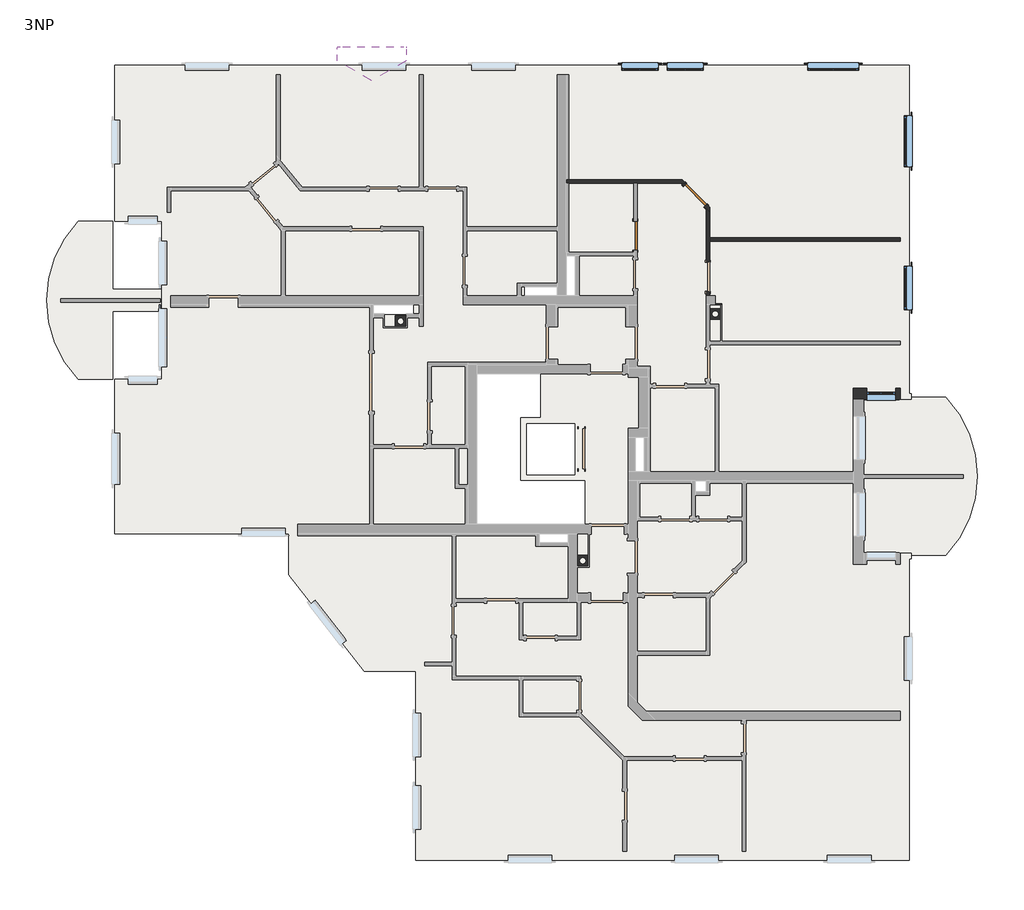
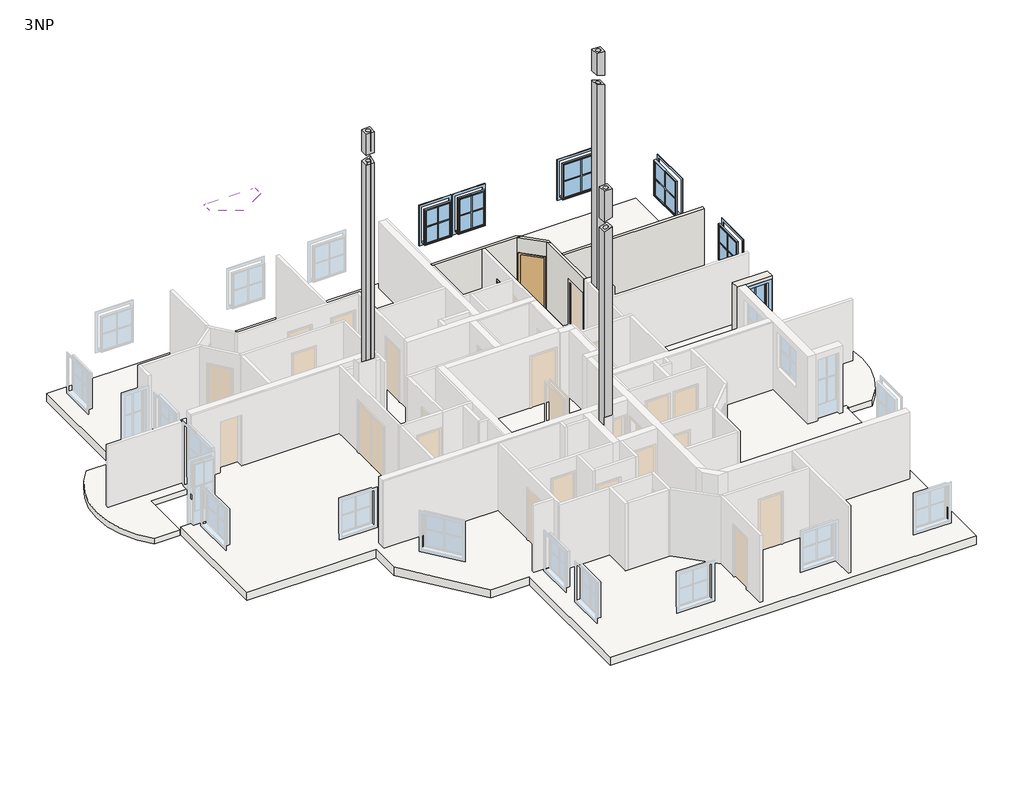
# One storey, part 4 of 4: 6 walls, 6 windows, 3 columns, 3 slabs, 2 doors, 1 roof.
"""IFC4 building model written with IfcOpenShell, lengths in millimetres."""

from ifc_helpers import new_model, si_unit, point, frame, frame_2d, origin, place, context, project, spatial, polyline, circle_curve, ellipse_curve, trimmed, segment, composite_curve, outline, extrude, faceted_brep, transform, mapped, element, save
from ifc_brep_helpers import plane_surface, cylinder_surface, revolved_surface, advanced_brep
from components import sd_800x2000_80f4ff25, standard_window_with_mullions_d3525f46, standard_window_with_mullions_80486b60, standard_window_with_mullions_12e20a72, window_2_4fa60929

model = new_model("IFC4")

# Units and contexts
model_context = context("Model", 3, world=origin())
ifc_project = project(units=[si_unit("LENGTHUNIT", "METRE", prefix="MILLI")], contexts=[model_context])

# Site, building, storey
site = spatial("IfcSite", under=ifc_project)
building = spatial("IfcBuilding", under=site)
storey = spatial("IfcBuildingStorey", under=building, Name="3NP", Elevation=5900.0)

# Columns
placement = place(None, origin())
element("IfcColumn", 1, ObjectType="AT Kamin : 300/300/160", at=placement, inside=storey, context=model_context, shape_type="AdvancedBrep", body=[
    advanced_brep(
    [(-4557.1962165, 3917.6290541, 17750.0), (-4857.1962165, 3917.6290541, 17750.0), (-4857.1962165, 3617.6290541, 17750.0), (-4557.1962165, 3617.6290541, 17750.0), (-4787.1962165, 3767.6290541, 17750.0), (-4627.1962165, 3767.6290541, 17750.0), (-4557.1962165, 3917.6290541, 17000.1974097), (-4857.1962165, 3917.6290541, 16902.7215009), (-4857.1962165, 3617.6290541, 16902.7215009), (-4841.2600407, 3617.6290541, 16907.8994783), (-4557.1962165, 3617.6290541, 16907.8994783), (-4557.1962165, 3901.6928783, 17000.1974097), (-4787.1962165, 3767.6290541, 16925.4658796), (-4643.223579, 3815.6655158, 16972.2454252), (-4627.1962165, 3767.6290541, 16956.6374327), (-4755.2326782, 3703.6564166, 16935.8514628)],
    [
        (0, 1),
        (1, 2),
        (2, 3),
        (3, 0),
        (4, 5, circle_curve(frame((-4707.1962165, 3767.6290541, 17750.0), z_axis=(0.0, 0.0, -1.0), x_axis=(1.0, 0.0, 0.0)), 80.0)),
        (5, 4, circle_curve(frame((-4707.1962165, 3767.6290541, 17750.0), z_axis=(0.0, 0.0, -1.0), x_axis=(1.0, 0.0, 0.0)), 80.0)),
        (0, 6),
        (6, 7),
        (7, 1),
        (7, 8),
        (8, 2),
        (8, 9),
        (9, 10),
        (10, 3),
        (10, 11),
        (11, 6),
        (4, 12),
        (12, 13, ellipse_curve(frame((-4707.1962165, 3767.6290541, 16951.4594553), z_axis=(0.30901699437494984, 0.0, -0.9510565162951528), x_axis=(-0.9510565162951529, 0.0, -0.30901699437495)), 84.1169779, 80.0)),
        (13, 14, ellipse_curve(frame((-4707.1962165, 3767.6290541, 16956.6374327), z_axis=(0.0, 0.30901699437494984, -0.9510565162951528), x_axis=(0.0, -0.9510565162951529, -0.30901699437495)), 84.1169779, 80.0)),
        (14, 5),
        (14, 15, ellipse_curve(frame((-4707.1962165, 3767.6290541, 16956.6374327), z_axis=(0.0, 0.30901699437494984, -0.9510565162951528), x_axis=(0.0, -0.9510565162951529, -0.30901699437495)), 84.1169779, 80.0)),
        (15, 12, ellipse_curve(frame((-4707.1962165, 3767.6290541, 16951.4594553), z_axis=(0.30901699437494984, 0.0, -0.9510565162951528), x_axis=(-0.9510565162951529, 0.0, -0.30901699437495)), 84.1169779, 80.0)),
        (11, 13),
        (15, 9),
    ],
    [
        plane_surface(frame((-4857.1962165, 3917.6290541, 17750.0), z_axis=(0.0, 0.0, 1.0), x_axis=(-1.0, 0.0, 0.0))),
        plane_surface(frame((-4557.1962165, 3917.6290541, 17750.0), z_axis=(0.0, 1.0, 0.0), x_axis=(0.0, 0.0, -1.0))),
        plane_surface(frame((-4857.1962165, 3917.6290541, 17750.0), z_axis=(-1.0, 0.0, 0.0), x_axis=(0.0, 0.0, -1.0))),
        plane_surface(frame((-4857.1962165, 3617.6290541, 17750.0), z_axis=(0.0, -1.0, 0.0), x_axis=(0.0, 0.0, -1.0))),
        plane_surface(frame((-4557.1962165, 3617.6290541, 17750.0), z_axis=(1.0, 0.0, 0.0), x_axis=(0.0, 0.0, -1.0))),
        revolved_surface(polyline([(-4627.1962165, 3767.6290541, 16925.4658796), (-4627.1962165, 3767.6290541, 17750.0)]), (-4707.1962165, 3767.6290541, 5900.0), (0.0, 0.0, -1.0)),
        plane_surface(frame((-8021.8499172, 8372.0175181, 15874.4631818), z_axis=(0.30901699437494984, 0.0, -0.9510565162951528), x_axis=(0.0, -1.0, 0.0))),
        plane_surface(frame((-8021.8499172, 437.0391776, 15874.4631818), z_axis=(0.0, 0.30901699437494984, -0.9510565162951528), x_axis=(1.0, 0.0, 0.0))),
    ],
    [
        (0, [[1, 2, 3, 4], [5, 6]]),
        (1, [[-1, 7, 8, 9]]),
        (2, [[-2, -9, 10, 11]]),
        (3, [[-3, -11, 12, 13, 14]]),
        (4, [[-4, -14, 15, 16, -7]]),
        (5, [[-5, 17, 18, 19, 20]]),
        (5, [[-6, -20, 21, 22, -17]]),
        (6, [[23, -18, -22, 24, -12, -10, -8, -16]]),
        (7, [[-23, -15, -13, -24, -21, -19]]),
    ],
),
    advanced_brep(
    [(-4557.1962165, 3917.6290541, 5900.0), (-4557.1962165, 3867.6290541, 5900.0), (-4557.1962165, 3617.6290541, 5900.0), (-4857.1962165, 3617.6290541, 5900.0), (-4857.1962165, 3917.6290541, 5900.0), (-4787.1962165, 3767.6290541, 5900.0), (-4627.1962165, 3767.6290541, 5900.0), (-4643.223579, 3815.6655158, 16593.7190245), (-4557.1962165, 3901.6928783, 16621.671009), (-4557.1962165, 3917.6290541, 16621.671009), (-4857.1962165, 3917.6290541, 16524.1951001), (-4857.1962165, 3617.6290541, 16524.1951001), (-4841.2600407, 3617.6290541, 16529.3730775), (-4755.2326782, 3703.6564166, 16557.325062), (-4787.1962165, 3767.6290541, 16546.9394789), (-4627.1962165, 3767.6290541, 16578.111032), (-4557.1962165, 3617.6290541, 16529.3730775), (-4557.1962165, 3617.6290541, 8850.0)],
    [
        (0, 1),
        (1, 2),
        (2, 3),
        (3, 4),
        (4, 0),
        (5, 6, circle_curve(frame((-4707.1962165, 3767.6290541, 5900.0), z_axis=(0.0, 0.0, 1.0), x_axis=(1.0, 0.0, 0.0)), 80.0)),
        (6, 5, circle_curve(frame((-4707.1962165, 3767.6290541, 5900.0), z_axis=(0.0, 0.0, 1.0), x_axis=(1.0, 0.0, 0.0)), 80.0)),
        (7, 8),
        (8, 9),
        (9, 10),
        (10, 11),
        (11, 12),
        (12, 13),
        (13, 14, ellipse_curve(frame((-4707.1962165, 3767.6290541, 16572.9330546), z_axis=(0.30901699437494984, 0.0, -0.9510565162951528), x_axis=(-0.9510565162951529, 0.0, -0.30901699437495)), 84.1169779, 80.0)),
        (14, 7, ellipse_curve(frame((-4707.1962165, 3767.6290541, 16572.9330546), z_axis=(0.30901699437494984, 0.0, -0.9510565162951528), x_axis=(-0.9510565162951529, 0.0, -0.30901699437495)), 84.1169779, 80.0)),
        (7, 15, ellipse_curve(frame((-4707.1962165, 3767.6290541, 16578.111032), z_axis=(0.0, 0.30901699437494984, -0.9510565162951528), x_axis=(0.0, -0.9510565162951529, -0.30901699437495)), 84.1169779, 80.0)),
        (15, 13, ellipse_curve(frame((-4707.1962165, 3767.6290541, 16578.111032), z_axis=(0.0, 0.30901699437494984, -0.9510565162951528), x_axis=(0.0, -0.9510565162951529, -0.30901699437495)), 84.1169779, 80.0)),
        (12, 16),
        (16, 8),
        (4, 10),
        (9, 0),
        (3, 11),
        (2, 17),
        (17, 16),
        (6, 15),
        (14, 5),
    ],
    [
        plane_surface(frame((-4857.1962165, 3917.6290541, 5900.0), z_axis=(0.0, 0.0, -1.0), x_axis=(1.0, 0.0, 0.0))),
        plane_surface(frame((-8021.8499172, 8372.0175181, 15495.936781), z_axis=(-0.30901699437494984, 0.0, 0.9510565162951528), x_axis=(0.0, -1.0, 0.0))),
        plane_surface(frame((-8021.8499172, 437.0391776, 15495.936781), z_axis=(0.0, -0.30901699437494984, 0.9510565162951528), x_axis=(1.0, 0.0, 0.0))),
        plane_surface(frame((-4557.1962165, 3917.6290541, 17750.0), z_axis=(0.0, 1.0, 0.0), x_axis=(0.0, 0.0, -1.0))),
        plane_surface(frame((-4857.1962165, 3917.6290541, 17750.0), z_axis=(-1.0, 0.0, 0.0), x_axis=(0.0, 0.0, -1.0))),
        plane_surface(frame((-4857.1962165, 3617.6290541, 17750.0), z_axis=(0.0, -1.0, 0.0), x_axis=(0.0, 0.0, -1.0))),
        plane_surface(frame((-4557.1962165, 3617.6290541, 17750.0), z_axis=(1.0, 0.0, 0.0), x_axis=(0.0, 0.0, -1.0))),
        revolved_surface(polyline([(-4627.1962165, 3767.6290541, 5900.0), (-4627.1962165, 3767.6290541, 16604.10460768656)]), (-4707.1962165, 3767.6290541, 5900.0), (0.0, 0.0, -1.0)),
    ],
    [
        (0, [[1, 2, 3, 4, 5], [6, 7]]),
        (1, [[8, 9, 10, 11, 12, 13, 14, 15]]),
        (2, [[-8, 16, 17, -13, 18, 19]]),
        (3, [[-5, 20, -10, 21]]),
        (4, [[-4, 22, -11, -20]]),
        (5, [[-3, 23, 24, -18, -12, -22]]),
        (6, [[-2, -1, -21, -9, -19, -24, -23]]),
        (7, [[-7, 25, -16, -15, 26]]),
        (7, [[-6, -26, -14, -17, -25]]),
    ],
),
])
element("IfcColumn", 2, ObjectType="AT Kamin : 300/300/160", at=placement, inside=storey, context=model_context, shape_type="AdvancedBrep", body=[
    advanced_brep(
    [(463.5618728, -2682.3709459, 17750.0), (163.5618728, -2682.3709459, 17750.0), (163.5618728, -2982.3709459, 17750.0), (463.5618728, -2982.3709459, 17750.0), (233.5618728, -2832.3709459, 17750.0), (393.5618728, -2832.3709459, 17750.0), (463.5618728, -2682.3709459, 16623.4506996), (163.5618728, -2682.3709459, 16525.9747908), (163.5618728, -2982.3709459, 16525.9747908), (463.5618728, -2982.3709459, 16623.4506996), (233.5618728, -2832.3709459, 16548.7191695), (393.5618728, -2832.3709459, 16600.7063209)],
    [
        (0, 1),
        (1, 2),
        (2, 3),
        (3, 0),
        (4, 5, circle_curve(frame((313.5618728, -2832.3709459, 17750.0), z_axis=(0.0, 0.0, -1.0), x_axis=(1.0, 0.0, 0.0)), 80.0)),
        (5, 4, circle_curve(frame((313.5618728, -2832.3709459, 17750.0), z_axis=(0.0, 0.0, -1.0), x_axis=(1.0, 0.0, 0.0)), 80.0)),
        (0, 6),
        (6, 7),
        (7, 1),
        (7, 8),
        (8, 2),
        (8, 9),
        (9, 3),
        (9, 6),
        (4, 10),
        (10, 11, ellipse_curve(frame((313.5618728, -2832.3709459, 16574.7127452), z_axis=(0.30901699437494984, 0.0, -0.9510565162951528), x_axis=(-0.9510565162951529, 0.0, -0.30901699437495)), 84.1169779, 80.0)),
        (11, 5),
        (11, 10, ellipse_curve(frame((313.5618728, -2832.3709459, 16574.7127452), z_axis=(0.30901699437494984, 0.0, -0.9510565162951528), x_axis=(-0.9510565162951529, 0.0, -0.30901699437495)), 84.1169779, 80.0)),
    ],
    [
        plane_surface(frame((163.5618728, -2682.3709459, 17750.0), z_axis=(0.0, 0.0, 1.0), x_axis=(-1.0, 0.0, 0.0))),
        plane_surface(frame((463.5618728, -2682.3709459, 17750.0), z_axis=(0.0, 1.0, 0.0), x_axis=(0.0, 0.0, -1.0))),
        plane_surface(frame((163.5618728, -2682.3709459, 17750.0), z_axis=(-1.0, 0.0, 0.0), x_axis=(0.0, 0.0, -1.0))),
        plane_surface(frame((163.5618728, -2982.3709459, 17750.0), z_axis=(0.0, -1.0, 0.0), x_axis=(0.0, 0.0, -1.0))),
        plane_surface(frame((463.5618728, -2982.3709459, 17750.0), z_axis=(1.0, 0.0, 0.0), x_axis=(0.0, 0.0, -1.0))),
        revolved_surface(polyline([(393.5618728, -2832.3709459, 16548.7191695), (393.5618728, -2832.3709459, 17750.0)]), (313.5618728, -2832.3709459, 5900.0), (0.0, 0.0, -1.0)),
        plane_surface(frame((-1841.5846805, 437.0391776, 15874.4631818), z_axis=(0.30901699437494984, 0.0, -0.9510565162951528), x_axis=(0.0, -1.0, 0.0))),
    ],
    [
        (0, [[1, 2, 3, 4], [5, 6]]),
        (1, [[-1, 7, 8, 9]]),
        (2, [[-2, -9, 10, 11]]),
        (3, [[-3, -11, 12, 13]]),
        (4, [[-4, -13, 14, -7]]),
        (5, [[-5, 15, 16, 17]]),
        (5, [[-6, -17, 18, -15]]),
        (6, [[-8, -14, -12, -10], [-16, -18]]),
    ],
),
    advanced_brep(
    [(463.5618728, -2682.3709459, 5900.0), (463.5618728, -2982.3709459, 5900.0), (163.5618728, -2982.3709459, 5900.0), (163.5618728, -2682.3709459, 5900.0), (233.5618728, -2832.3709459, 5900.0), (393.5618728, -2832.3709459, 5900.0), (463.5618728, -2682.3709459, 16244.9242989), (163.5618728, -2682.3709459, 16147.44839), (163.5618728, -2982.3709459, 16147.44839), (463.5618728, -2982.3709459, 16244.9242989), (233.5618728, -2832.3709459, 16170.1927688), (393.5618728, -2832.3709459, 16222.1799202), (163.5618728, -2982.3709459, 8850.0), (463.5618728, -2982.3709459, 8850.0)],
    [
        (0, 1),
        (1, 2),
        (2, 3),
        (3, 0),
        (4, 5, circle_curve(frame((313.5618728, -2832.3709459, 5900.0), z_axis=(0.0, 0.0, 1.0), x_axis=(1.0, 0.0, 0.0)), 80.0)),
        (5, 4, circle_curve(frame((313.5618728, -2832.3709459, 5900.0), z_axis=(0.0, 0.0, 1.0), x_axis=(1.0, 0.0, 0.0)), 80.0)),
        (6, 7),
        (7, 8),
        (8, 9),
        (9, 6),
        (10, 11, ellipse_curve(frame((313.5618728, -2832.3709459, 16196.1863445), z_axis=(0.30901699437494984, 0.0, -0.9510565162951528), x_axis=(-0.9510565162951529, 0.0, -0.30901699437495)), 84.1169779, 80.0)),
        (11, 10, ellipse_curve(frame((313.5618728, -2832.3709459, 16196.1863445), z_axis=(0.30901699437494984, 0.0, -0.9510565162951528), x_axis=(-0.9510565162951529, 0.0, -0.30901699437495)), 84.1169779, 80.0)),
        (3, 7),
        (6, 0),
        (2, 12),
        (12, 8),
        (1, 13),
        (13, 9),
        (5, 11),
        (10, 4),
    ],
    [
        plane_surface(frame((163.5618728, -2682.3709459, 5900.0), z_axis=(0.0, 0.0, -1.0), x_axis=(1.0, 0.0, 0.0))),
        plane_surface(frame((-1841.5846805, 437.0391776, 15495.936781), z_axis=(-0.30901699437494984, 0.0, 0.9510565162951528), x_axis=(0.0, -1.0, 0.0))),
        plane_surface(frame((463.5618728, -2682.3709459, 17750.0), z_axis=(0.0, 1.0, 0.0), x_axis=(0.0, 0.0, -1.0))),
        plane_surface(frame((163.5618728, -2682.3709459, 17750.0), z_axis=(-1.0, 0.0, 0.0), x_axis=(0.0, 0.0, -1.0))),
        plane_surface(frame((163.5618728, -2982.3709459, 17750.0), z_axis=(0.0, -1.0, 0.0), x_axis=(0.0, 0.0, -1.0))),
        plane_surface(frame((463.5618728, -2982.3709459, 17750.0), z_axis=(1.0, 0.0, 0.0), x_axis=(0.0, 0.0, -1.0))),
        revolved_surface(polyline([(393.5618728, -2832.3709459, 5900.0), (393.5618728, -2832.3709459, 16222.1799202)]), (313.5618728, -2832.3709459, 5900.0), (0.0, 0.0, -1.0)),
    ],
    [
        (0, [[1, 2, 3, 4], [5, 6]]),
        (1, [[7, 8, 9, 10], [11, 12]]),
        (2, [[-4, 13, -7, 14]]),
        (3, [[-3, 15, 16, -8, -13]]),
        (4, [[-2, 17, 18, -9, -16, -15]]),
        (5, [[-1, -14, -10, -18, -17]]),
        (6, [[-6, 19, -11, 20]]),
        (6, [[-5, -20, -12, -19]]),
    ],
),
])
element("IfcColumn", 3, ObjectType="AT Kamin : 300/300/160", at=placement, inside=storey, context=model_context, shape_type="AdvancedBrep", body=[
    advanced_brep(
    [(4112.8037835, 4116.2076978, 17750.0), (3812.8037835, 4116.2076978, 17750.0), (3812.8037835, 3816.2076978, 17750.0), (4112.8037835, 3816.2076978, 17750.0), (3882.8037835, 3966.2076978, 17750.0), (4042.8037835, 3966.2076978, 17750.0), (4112.8037835, 4116.2076978, 16807.8848523), (3812.8037835, 4116.2076978, 16905.3607612), (3812.8037835, 3816.2076978, 16905.3607612), (4112.8037835, 3816.2076978, 16807.8848523), (3882.8037835, 3966.2076978, 16882.6163825), (4042.8037835, 3966.2076978, 16830.6292311)],
    [
        (0, 1),
        (1, 2),
        (2, 3),
        (3, 0),
        (4, 5, circle_curve(frame((3962.8037835, 3966.2076978, 17750.0), z_axis=(0.0, 0.0, -1.0), x_axis=(1.0, 0.0, 0.0)), 80.0)),
        (5, 4, circle_curve(frame((3962.8037835, 3966.2076978, 17750.0), z_axis=(0.0, 0.0, -1.0), x_axis=(1.0, 0.0, 0.0)), 80.0)),
        (0, 6),
        (6, 7),
        (7, 1),
        (7, 8),
        (8, 2),
        (8, 9),
        (9, 3),
        (9, 6),
        (4, 10),
        (10, 11, ellipse_curve(frame((3962.8037835, 3966.2076978, 16856.6228068), z_axis=(-0.30901699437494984, 0.0, -0.9510565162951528), x_axis=(0.9510565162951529, 0.0, -0.30901699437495)), 84.1169779, 80.0)),
        (11, 5),
        (11, 10, ellipse_curve(frame((3962.8037835, 3966.2076978, 16856.6228068), z_axis=(-0.30901699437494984, 0.0, -0.9510565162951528), x_axis=(0.9510565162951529, 0.0, -0.30901699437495)), 84.1169779, 80.0)),
    ],
    [
        plane_surface(frame((3812.8037835, 4116.2076978, 17750.0), z_axis=(0.0, 0.0, 1.0), x_axis=(-1.0, 0.0, 0.0))),
        plane_surface(frame((4112.8037835, 4116.2076978, 17750.0), z_axis=(0.0, 1.0, 0.0), x_axis=(0.0, 0.0, -1.0))),
        plane_surface(frame((3812.8037835, 4116.2076978, 17750.0), z_axis=(-1.0, 0.0, 0.0), x_axis=(0.0, 0.0, -1.0))),
        plane_surface(frame((3812.8037835, 3816.2076978, 17750.0), z_axis=(0.0, -1.0, 0.0), x_axis=(0.0, 0.0, -1.0))),
        plane_surface(frame((4112.8037835, 3816.2076978, 17750.0), z_axis=(1.0, 0.0, 0.0), x_axis=(0.0, 0.0, -1.0))),
        revolved_surface(polyline([(4042.8037835, 3966.2076978, 16830.6292311), (4042.8037835, 3966.2076978, 17750.0)]), (3962.8037835, 3966.2076978, 5900.0), (0.0, 0.0, -1.0)),
        plane_surface(frame((6985.5802922, -11532.3709459, 15874.4631818), z_axis=(-0.30901699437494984, 0.0, -0.9510565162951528), x_axis=(0.0, 1.0, 0.0))),
    ],
    [
        (0, [[1, 2, 3, 4], [5, 6]]),
        (1, [[-1, 7, 8, 9]]),
        (2, [[-2, -9, 10, 11]]),
        (3, [[-3, -11, 12, 13]]),
        (4, [[-4, -13, 14, -7]]),
        (5, [[-5, 15, 16, 17]]),
        (5, [[-6, -17, 18, -15]]),
        (6, [[-8, -14, -12, -10], [-16, -18]]),
    ],
),
    advanced_brep(
    [(4112.8037835, 4116.2076978, 5900.0), (4112.8037835, 3816.2076978, 5900.0), (3812.8037835, 3816.2076978, 5900.0), (3812.8037835, 4116.2076978, 5900.0), (3882.8037835, 3966.2076978, 5900.0), (4042.8037835, 3966.2076978, 5900.0), (4112.8037835, 4116.2076978, 16429.3584516), (4012.8037835, 4116.2076978, 16461.8504212), (3882.8037835, 4116.2076978, 16504.0899817), (3812.8037835, 4116.2076978, 16526.8343605), (3812.8037835, 3816.2076978, 16526.8343605), (4112.8037835, 3816.2076978, 16429.3584516), (3882.8037835, 3966.2076978, 16504.0899817), (4042.8037835, 3966.2076978, 16452.1028303), (4112.8037835, 4116.2076978, 11800.0)],
    [
        (0, 1),
        (1, 2),
        (2, 3),
        (3, 0),
        (4, 5, circle_curve(frame((3962.8037835, 3966.2076978, 5900.0), z_axis=(0.0, 0.0, 1.0), x_axis=(1.0, 0.0, 0.0)), 80.0)),
        (5, 4, circle_curve(frame((3962.8037835, 3966.2076978, 5900.0), z_axis=(0.0, 0.0, 1.0), x_axis=(1.0, 0.0, 0.0)), 80.0)),
        (6, 7),
        (7, 8),
        (8, 9),
        (9, 10),
        (10, 11),
        (11, 6),
        (12, 13, ellipse_curve(frame((3962.8037835, 3966.2076978, 16478.096406), z_axis=(-0.30901699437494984, 0.0, -0.9510565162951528), x_axis=(0.9510565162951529, 0.0, -0.30901699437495)), 84.1169779, 80.0)),
        (13, 12, ellipse_curve(frame((3962.8037835, 3966.2076978, 16478.096406), z_axis=(-0.30901699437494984, 0.0, -0.9510565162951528), x_axis=(0.9510565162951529, 0.0, -0.30901699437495)), 84.1169779, 80.0)),
        (3, 9),
        (6, 14),
        (14, 0),
        (2, 10),
        (1, 11),
        (5, 13),
        (12, 4),
    ],
    [
        plane_surface(frame((3812.8037835, 4116.2076978, 5900.0), z_axis=(0.0, 0.0, -1.0), x_axis=(1.0, 0.0, 0.0))),
        plane_surface(frame((6985.5802922, -11532.3709459, 15495.936781), z_axis=(0.30901699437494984, 0.0, 0.9510565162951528), x_axis=(0.0, 1.0, 0.0))),
        plane_surface(frame((4112.8037835, 4116.2076978, 17750.0), z_axis=(0.0, 1.0, 0.0), x_axis=(0.0, 0.0, -1.0))),
        plane_surface(frame((3812.8037835, 4116.2076978, 17750.0), z_axis=(-1.0, 0.0, 0.0), x_axis=(0.0, 0.0, -1.0))),
        plane_surface(frame((3812.8037835, 3816.2076978, 17750.0), z_axis=(0.0, -1.0, 0.0), x_axis=(0.0, 0.0, -1.0))),
        plane_surface(frame((4112.8037835, 3816.2076978, 17750.0), z_axis=(1.0, 0.0, 0.0), x_axis=(0.0, 0.0, -1.0))),
        revolved_surface(polyline([(4042.8037835, 3966.2076978, 5900.0), (4042.8037835, 3966.2076978, 16504.0899817)]), (3962.8037835, 3966.2076978, 5900.0), (0.0, 0.0, -1.0)),
    ],
    [
        (0, [[1, 2, 3, 4], [5, 6]]),
        (1, [[7, 8, 9, 10, 11, 12], [13, 14]]),
        (2, [[-4, 15, -9, -8, -7, 16, 17]]),
        (3, [[-3, 18, -10, -15]]),
        (4, [[-2, 19, -11, -18]]),
        (5, [[-1, -17, -16, -12, -19]]),
        (6, [[-6, 20, -13, 21]]),
        (6, [[-5, -21, -14, -20]]),
    ],
),
])

# Doors
sd_800x2000_shape = sd_800x2000_80f4ff25(model_context)
element("IfcDoor", 4, ObjectType="JednokridlePlne : SD 800x2000", at=placement, inside=storey, context=model_context, shape_type="MappedRepresentation", body=[
    mapped(sd_800x2000_shape, transform((3410.8458954, 7240.2976203, 5900.0), x_axis=(0.7071067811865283, -0.7071067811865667, 0.0), y_axis=(0.7071067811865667, 0.7071067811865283, 0.0), z_axis=(0.0, 0.0, 1.0))),
])
element("IfcDoor", 5, ObjectType="JednokridlePlne : SD 800x2000", at=placement, inside=storey, context=model_context, shape_type="MappedRepresentation", body=[
    mapped(sd_800x2000_shape, transform((1762.8037835, 6127.9240135, 5900.0), x_axis=(0.0, -1.0, 0.0), y_axis=(1.0, 0.0, 0.0), z_axis=(0.0, 0.0, 1.0))),
])

# Roof
element("IfcRoof", 6, ObjectType="Dormer", at=placement, inside=storey, context=model_context, shape_type="Brep", body=[
    faceted_brep([(-6450.2469102, 11337.6290541, 10859.1168825), (-6450.2469102, 11337.6290541, 11412.1320344), (-5500.2469102, 11337.6290541, 12362.1320344), (-4550.2469102, 11337.6290541, 11412.1320344), (-4550.2469102, 11337.6290541, 10859.1168825), (-4700.2469102, 11337.6290541, 10859.1168825), (-4700.2469102, 11337.6290541, 11350.0), (-5500.2469102, 11337.6290541, 12150.0), (-6300.2469102, 11337.6290541, 11350.0), (-6300.2469102, 11337.6290541, 10859.1168825), (-6450.2469102, 11267.6290541, 10859.1168825), (-6450.2469102, 10948.3456073, 11412.1320344), (-5500.2469102, 10399.8628515, 12362.1320344), (-4550.2469102, 10948.3456073, 11412.1320344), (-4550.2469102, 11267.6290541, 10859.1168825), (-4700.2469102, 11267.6290541, 10859.1168825), (-4700.2469102, 10984.217554, 11350.0), (-5500.2469102, 10522.3373387, 12150.0), (-6300.2469102, 10984.217554, 11350.0), (-6300.2469102, 11267.6290541, 10859.1168825)], [[[0, 1, 2, 3, 4, 5, 6, 7, 8, 9]], [[1, 0, 10, 11]], [[2, 1, 11, 12]], [[3, 2, 12, 13]], [[4, 3, 13, 14]], [[5, 4, 14, 15]], [[6, 5, 15, 16]], [[7, 6, 16, 17]], [[8, 7, 17, 18]], [[9, 8, 18, 19]], [[0, 9, 19, 10]], [[10, 19, 18, 17, 16, 15, 14, 13, 12, 11]]]),
])

# Slabs
element("IfcSlab", 7, ObjectType="Concrete", at=placement, inside=storey, context=model_context, shape_type="SweptSolid", body=[
    extrude(outline(composite_curve([segment(trimmed(circle_curve(frame_2d((-11337.1962165, 4342.6290541)), 3128.236703), [point((-13585.5822754, 2167.6290541))], [point((-13585.5822754, 6517.6290541))], False, "CARTESIAN"), True, "CONTINUOUS"), segment(polyline([(-13585.5822754, 6517.6290541), (-12637.1962165, 6517.6290541), (-12637.1962165, 4647.6290541), (-11287.1962165, 4647.6290541), (-11287.1962165, 4037.6290541), (-12637.1962165, 4037.6290541), (-12637.1962165, 2167.6290541), (-13585.5822754, 2167.6290541)]), True, "CONTINUOUS")], self_intersect=False)), frame((0.0, 0.0, 5580.0), z_axis=(0.0, 0.0, 1.0), x_axis=(1.0, 0.0, 0.0)), (0.0, 0.0, 1.0), 220.0),
])
element("IfcSlab", 8, ObjectType="Concrete", at=placement, inside=storey, context=model_context, shape_type="AdvancedBrep", body=[
    advanced_brep(
    [(10311.1898424, 1667.6290541, 5580.0), (10311.1898424, -2682.3709459, 5580.0), (9362.8037835, -2682.3709459, 5580.0), (8012.8037835, -2682.3709459, 5580.0), (8012.8037835, 1667.6290541, 5580.0), (9362.8037835, 1667.6290541, 5580.0), (10311.1898424, 1667.6290541, 5800.0), (8012.8037835, 1667.6290541, 5800.0), (8012.8037835, -2682.3709459, 5800.0), (10311.1898424, -2682.3709459, 5800.0)],
    [
        (0, 1, circle_curve(frame((8062.8037835, -507.3709459, 5580.0), z_axis=(0.0, 0.0, -1.0), x_axis=(1.0, 0.0, 0.0)), 3128.236703)),
        (1, 2),
        (2, 3),
        (3, 4),
        (4, 5),
        (5, 0),
        (6, 7),
        (7, 8),
        (8, 9),
        (9, 6, circle_curve(frame((8062.8037835, -507.3709459, 5800.0), z_axis=(0.0, 0.0, 1.0), x_axis=(1.0, 0.0, 0.0)), 3128.236703)),
        (0, 6),
        (9, 1),
        (8, 3),
        (7, 4),
    ],
    [
        plane_surface(frame((11191.0404865, -507.3709459, 5580.0), z_axis=(0.0, 0.0, -1.0), x_axis=(0.0, -1.0, 0.0))),
        plane_surface(frame((11191.0404865, -507.3709459, 5800.0), z_axis=(0.0, 0.0, 1.0), x_axis=(0.0, 1.0, 0.0))),
        cylinder_surface(frame((8062.8037835, -507.3709459, 5800.0), z_axis=(0.0, 0.0, -1.0), x_axis=(1.0, 0.0, 0.0)), 3128.236703),
        plane_surface(frame((10311.1898424, -2682.3709459, 5580.0), z_axis=(0.0, -1.0, 0.0), x_axis=(0.0, 0.0, 1.0))),
        plane_surface(frame((8012.8037835, -2682.3709459, 5580.0), z_axis=(-1.0, 0.0, 0.0), x_axis=(0.0, 0.0, 1.0))),
        plane_surface(frame((8012.8037835, 1667.6290541, 5580.0), z_axis=(0.0, 1.0, 0.0), x_axis=(0.0, 0.0, 1.0))),
    ],
    [
        (0, [[1, 2, 3, 4, 5, 6]]),
        (1, [[7, 8, 9, 10]]),
        (2, [[-1, 11, -10, 12]]),
        (3, [[-3, -2, -12, -9, 13]]),
        (4, [[-4, -13, -8, 14]]),
        (5, [[-6, -5, -14, -7, -11]]),
    ],
),
])
element("IfcSlab", 9, ObjectType="STB200 + 120", at=placement, inside=storey, context=model_context, shape_type="Brep", body=[
    faceted_brep([(9312.8037835, 10817.6290541, 5580.0), (9312.8037835, 1767.6290541, 5580.0), (9362.8037835, 1767.6290541, 5580.0), (9362.8037835, 1667.6290541, 5580.0), (8012.8037835, 1667.6290541, 5580.0), (8012.8037835, -2682.3709459, 5580.0), (9362.8037835, -2682.3709459, 5580.0), (9362.8037835, -2782.3709459, 5580.0), (9312.8037835, -2782.3709459, 5580.0), (9312.8037835, -11082.3709459, 5580.0), (-4287.1962165, -11082.3709459, 5580.0), (-4287.1962165, -5882.3709459, 5580.0), (-5712.7420262, -5882.3709459, 5580.0), (-7787.1962165, -3215.2155584, 5580.0), (-7787.1962165, -2082.3709459, 5580.0), (-12587.1962165, -2082.3709459, 5580.0), (-12587.1962165, 2167.6290541, 5580.0), (-11287.1962165, 2167.6290541, 5580.0), (-11287.1962165, 4037.6290541, 5580.0), (-11287.1962165, 4647.6290541, 5580.0), (-11287.1962165, 6517.6290541, 5580.0), (-12587.1962165, 6517.6290541, 5580.0), (-12587.1962165, 10817.6290541, 5580.0), (-2607.1962165, 2317.6290541, 5580.0), (-2607.1962165, -1832.3709459, 5580.0), (362.8037835, -1832.3709459, 5580.0), (362.8037835, -632.3709459, 5580.0), (-1407.1962165, -632.3709459, 5580.0), (-1407.1962165, 1117.6290541, 5580.0), (-857.1962165, 1117.6290541, 5580.0), (-857.1962165, 2317.6290541, 5580.0), (-387.1962165, 4717.6290541, 5580.0), (-1287.1962165, 4717.6290541, 5580.0), (-1287.1962165, 4467.6290541, 5580.0), (-387.1962165, 4467.6290541, 5580.0), (112.8037835, 4467.6290541, 5580.0), (112.8037835, 5567.6290541, 5580.0), (-137.1962165, 5567.6290541, 5580.0), (-137.1962165, 4467.6290541, 5580.0), (-4357.1962165, 4217.6290541, 5580.0), (-5457.1962165, 4217.6290541, 5580.0), (-5457.1962165, 3967.6290541, 5580.0), (-4357.1962165, 3967.6290541, 5580.0), (2012.8037835, 567.6290541, 5580.0), (1762.8087381, 567.6290541, 5580.0), (1762.8087381, -382.3709459, 5580.0), (2012.8037835, -382.3709459, 5580.0), (3712.8037835, -632.3709459, 5580.0), (3412.8037835, -632.3709459, 5580.0), (3412.8037835, -932.3709459, 5580.0), (3712.8037835, -932.3709459, 5580.0), (-86.4381272, -2082.3709459, 5580.0), (-886.4381272, -2082.3709459, 5580.0), (-886.4381272, -2332.3709459, 5580.0), (-86.4381272, -2332.3709459, 5580.0), (87.8037835, 947.6290541, 5580.0), (-1237.1962165, 947.6290541, 5580.0), (-1237.1962165, -462.3709459, 5580.0), (87.8037835, -462.3709459, 5580.0), (9312.8037835, 1767.6290541, 5900.0), (9312.8037835, 10817.6290541, 5900.0), (-12587.1962165, 10817.6290541, 5900.0), (-12587.1962165, 6517.6290541, 5900.0), (-12207.370388, 6517.6290541, 5900.0), (-11407.370388, 6517.6290541, 5900.0), (-11287.1962165, 6517.6290541, 5900.0), (-11287.1962165, 4117.6290559, 5900.0), (-11287.1962165, 2517.6290559, 5900.0), (-11287.1962165, 2167.6290541, 5900.0), (-11407.3703663, 2167.6290541, 5900.0), (-12207.3703663, 2167.6290541, 5900.0), (-12587.1962165, 2167.6290541, 5900.0), (-12587.1962165, -2082.3709459, 5900.0), (-7787.1962165, -2082.3709459, 5900.0), (-7787.1962165, -3215.2155584, 5900.0), (-5712.7420262, -5882.3709459, 5900.0), (-4287.1962165, -5882.3709459, 5900.0), (-4287.1962165, -11082.3709459, 5900.0), (9312.8037835, -11082.3709459, 5900.0), (9312.8037835, -2782.3709459, 5900.0), (9362.8037835, -2782.3709459, 5900.0), (9362.8037835, -2632.3709459, 5900.0), (9062.8037835, -2632.3709459, 5900.0), (8932.977935, -2632.3709459, 5900.0), (8132.977935, -2632.3709459, 5900.0), (8062.8037835, -2632.3709459, 5900.0), (8062.8037835, 1617.6290541, 5900.0), (9062.8037835, 1617.6290541, 5900.0), (9362.8037835, 1617.6290541, 5900.0), (9362.8037835, 1767.6290541, 5900.0), (-2607.1962165, -1832.3709459, 5900.0), (-2607.1962165, 2317.6290541, 5900.0), (-857.1962165, 2317.6290541, 5900.0), (-857.1962165, 1117.6290541, 5900.0), (-1407.1962165, 1117.6290541, 5900.0), (-1407.1962165, -632.3709459, 5900.0), (362.8037835, -632.3709459, 5900.0), (362.8037835, -1832.3709459, 5900.0), (-1287.1962165, 4717.6290541, 5900.0), (-387.1962165, 4717.6290541, 5900.0), (-387.1962165, 4467.6290541, 5900.0), (-1287.1962165, 4467.6290541, 5900.0), (112.8037835, 5567.6290541, 5900.0), (112.8037835, 4467.6290541, 5900.0), (-137.1962165, 4467.6290541, 5900.0), (-137.1962165, 5567.6290541, 5900.0), (-5457.1962165, 4217.6290541, 5900.0), (-4357.1962165, 4217.6290541, 5900.0), (-4357.1962165, 3967.6290541, 5900.0), (-5457.1962165, 3967.6290541, 5900.0), (1762.8087381, 567.6290541, 5900.0), (2012.8037835, 567.6290541, 5900.0), (2012.8037835, -382.3709459, 5900.0), (1762.8087381, -382.3709459, 5900.0), (3412.8037835, -632.3709459, 5900.0), (3712.8037835, -632.3709459, 5900.0), (3712.8037835, -932.3709459, 5900.0), (3412.8037835, -932.3709459, 5900.0), (-886.4381272, -2082.3709459, 5900.0), (-86.4381272, -2082.3709459, 5900.0), (-86.4381272, -2332.3709459, 5900.0), (-886.4381272, -2332.3709459, 5900.0), (-1237.1962165, 947.6290541, 5900.0), (87.8037835, 947.6290541, 5900.0), (87.8037835, -462.3709459, 5900.0), (-1237.1962165, -462.3709459, 5900.0), (9362.8037835, 1617.6290541, 5800.0), (9362.8037835, 1667.6290541, 5800.0), (8062.8037835, 1617.6290541, 5800.0), (8062.8037835, -2632.3709459, 5800.0), (9362.8037835, -2632.3709459, 5800.0), (9362.8037835, -2682.3709459, 5800.0), (8012.8037835, -2682.3709459, 5800.0), (8012.8037835, 1667.6290541, 5800.0)], [[[0, 1, 2, 3, 4, 5, 6, 7, 8, 9, 10, 11, 12, 13, 14, 15, 16, 17, 18, 19, 20, 21, 22], [23, 24, 25, 26, 27, 28, 29, 30], [31, 32, 33, 34], [35, 36, 37, 38], [39, 40, 41, 42], [43, 44, 45, 46], [47, 48, 49, 50], [51, 52, 53, 54], [55, 56, 57, 58]], [[59, 60, 61, 62, 63, 64, 65, 66, 67, 68, 69, 70, 71, 72, 73, 74, 75, 76, 77, 78, 79, 80, 81, 82, 83, 84, 85, 86, 87, 88, 89], [90, 91, 92, 93, 94, 95, 96, 97], [98, 99, 100, 101], [102, 103, 104, 105], [106, 107, 108, 109], [110, 111, 112, 113], [114, 115, 116, 117], [118, 119, 120, 121], [122, 123, 124, 125]], [[1, 0, 60, 59]], [[2, 1, 59, 89]], [[89, 88, 126, 127, 3, 2]], [[88, 87, 86, 128, 126]], [[86, 85, 129, 128]], [[85, 84, 83, 82, 81, 130, 129]], [[81, 80, 7, 6, 131, 130]], [[8, 7, 80, 79]], [[9, 8, 79, 78]], [[10, 9, 78, 77]], [[11, 10, 77, 76]], [[12, 11, 76, 75]], [[13, 12, 75, 74]], [[14, 13, 74, 73]], [[15, 14, 73, 72]], [[16, 15, 72, 71]], [[17, 16, 71, 70, 69, 68]], [[68, 67, 66, 65, 20, 19, 18, 17]], [[21, 20, 65, 64, 63, 62]], [[22, 21, 62, 61]], [[0, 22, 61, 60]], [[24, 23, 91, 90]], [[25, 24, 90, 97]], [[26, 25, 97, 96]], [[27, 26, 96, 95]], [[28, 27, 95, 94]], [[29, 28, 94, 93]], [[30, 29, 93, 92]], [[23, 30, 92, 91]], [[32, 31, 99, 98]], [[33, 32, 98, 101]], [[34, 33, 101, 100]], [[31, 34, 100, 99]], [[36, 35, 103, 102]], [[37, 36, 102, 105]], [[38, 37, 105, 104]], [[35, 38, 104, 103]], [[40, 39, 107, 106]], [[41, 40, 106, 109]], [[42, 41, 109, 108]], [[39, 42, 108, 107]], [[44, 43, 111, 110]], [[45, 44, 110, 113]], [[46, 45, 113, 112]], [[43, 46, 112, 111]], [[48, 47, 115, 114]], [[49, 48, 114, 117]], [[50, 49, 117, 116]], [[47, 50, 116, 115]], [[52, 51, 119, 118]], [[53, 52, 118, 121]], [[54, 53, 121, 120]], [[51, 54, 120, 119]], [[56, 55, 123, 122]], [[57, 56, 122, 125]], [[58, 57, 125, 124]], [[55, 58, 124, 123]], [[132, 133, 127, 126, 128, 129, 130, 131]], [[5, 132, 131, 6]], [[133, 132, 5, 4]], [[133, 4, 3, 127]]]),
])

# Walls
element("IfcWall", 10, ObjectType="Exterior - 250+50mm", at=placement, inside=storey, context=model_context, shape_type="Brep", body=[
    faceted_brep([(9062.8037835, 1917.6290541, 5900.0), (8932.977935, 1917.6290541, 5900.0), (8932.977935, 1917.6290541, 8300.0), (8132.977935, 1917.6290541, 8300.0), (8132.977935, 1917.6290541, 5900.0), (7762.8037835, 1917.6290541, 5900.0), (7762.8037835, 1917.6290541, 8530.0), (9062.8037835, 1917.6290541, 8530.0), (8932.977935, 1617.6290541, 8300.0), (8932.977935, 1617.6290541, 5900.0), (9062.8037835, 1617.6290541, 5900.0), (9062.8037835, 1617.6290541, 8530.0), (8062.8037835, 1617.6290541, 8530.0), (7762.8037835, 1617.6290541, 8530.0), (7762.8037835, 1617.6290541, 5900.0), (8062.8037835, 1617.6290541, 5900.0), (8132.977935, 1617.6290541, 5900.0), (8132.977935, 1617.6290541, 8300.0)], [[[0, 1, 2, 3, 4, 5, 6, 7]], [[8, 9, 10, 11, 12, 13, 14, 15, 16, 17]], [[10, 9, 1, 0]], [[16, 15, 14, 5, 4]], [[6, 5, 14, 13]], [[0, 7, 11, 10]], [[7, 6, 13, 12, 11]], [[2, 1, 9, 8]], [[3, 2, 8, 17]], [[4, 3, 17, 16]]]),
])
element("IfcWall", 11, ObjectType="Interior - 100mm", at=placement, inside=storey, context=model_context, shape_type="Brep", body=[
    faceted_brep([(-137.1962165, 7567.6290541, 5900.0), (-72.1962165, 7567.6290541, 5900.0), (1712.8037835, 7567.6290541, 5900.0), (1812.8037835, 7567.6290541, 5900.0), (3012.8037835, 7567.6290541, 5900.0), (3154.2251397, 7567.6290541, 5900.0), (3154.2251397, 7567.6290541, 8530.0), (3012.8037835, 7567.6290541, 8530.0), (1812.8037835, 7567.6290541, 8530.0), (1712.8037835, 7567.6290541, 8530.0), (-72.1962165, 7567.6290541, 8530.0), (-137.1962165, 7567.6290541, 8530.0), (-137.1962165, 7667.6290541, 5900.0), (-137.1962165, 7667.6290541, 8530.0), (3054.2251397, 7667.6290541, 8530.0), (3054.2251397, 7667.6290541, 5900.0)], [[[0, 1, 2, 3, 4, 5, 6, 7, 8, 9, 10, 11]], [[12, 13, 14, 15]], [[5, 4, 3, 2, 1, 0, 12, 15]], [[6, 5, 15, 14]], [[0, 11, 13, 12]], [[11, 10, 9, 8, 7, 6, 14, 13]]]),
])
element("IfcWall", 12, ObjectType="Interior - 100mm", at=placement, inside=storey, context=model_context, shape_type="Brep", body=[
    faceted_brep([(3812.8037835, 6767.6290541, 5900.0), (3812.8037835, 6767.6290541, 8530.0), (3712.8037835, 6867.6290541, 8530.0), (3012.8037835, 7567.6290541, 8530.0), (3012.8037835, 7567.6290541, 5900.0), (3092.6478438, 7487.7849937, 5900.0), (3092.6478438, 7487.7849937, 7900.0), (3658.3332688, 6922.0995688, 7900.0), (3658.3332688, 6922.0995688, 5900.0), (3712.8037835, 6867.6290541, 5900.0), (3812.8037835, 6909.0504103, 8530.0), (3812.8037835, 6909.0504103, 5900.0), (3729.0439469, 6992.8102469, 5900.0), (3729.0439469, 6992.8102469, 7900.0), (3163.3585219, 7558.4956719, 7900.0), (3163.3585219, 7558.4956719, 5900.0), (3154.2251397, 7567.6290541, 5900.0), (3154.2251397, 7567.6290541, 8530.0)], [[[0, 1, 2, 3, 4, 5, 6, 7, 8, 9]], [[10, 11, 12, 13, 14, 15, 16, 17]], [[11, 0, 9, 8, 12]], [[4, 16, 15, 5]], [[1, 0, 11, 10]], [[4, 3, 17, 16]], [[3, 2, 1, 10, 17]], [[7, 13, 12, 8]], [[13, 7, 6, 14]], [[14, 6, 5, 15]]]),
])
element("IfcWall", 13, ObjectType="Interior - 100mm", at=placement, inside=storey, context=model_context, shape_type="Brep", body=[
    faceted_brep([(3712.8037835, 4588.8717038, 7900.0), (3712.8037835, 4588.8717038, 5900.0), (3712.8037835, 4467.6290541, 5900.0), (3712.8037835, 4467.6290541, 8530.0), (3712.8037835, 6867.6290541, 8530.0), (3712.8037835, 6867.6290541, 5900.0), (3712.8037835, 5388.8717038, 5900.0), (3712.8037835, 5388.8717038, 7900.0), (3812.8037835, 4467.6290541, 5900.0), (3812.8037835, 4588.8717038, 5900.0), (3812.8037835, 4588.8717038, 7900.0), (3812.8037835, 5388.8717038, 7900.0), (3812.8037835, 5388.8717038, 5900.0), (3812.8037835, 5967.6290541, 5900.0), (3812.8037835, 6067.6290541, 5900.0), (3812.8037835, 6767.6290541, 5900.0), (3812.8037835, 6767.6290541, 8530.0), (3812.8037835, 6067.6290541, 8530.0), (3812.8037835, 5967.6290541, 8530.0), (3812.8037835, 4467.6290541, 8530.0)], [[[0, 1, 2, 3, 4, 5, 6, 7]], [[8, 9, 10, 11, 12, 13, 14, 15, 16, 17, 18, 19]], [[2, 1, 9, 8]], [[6, 5, 15, 14, 13, 12]], [[5, 4, 16, 15]], [[3, 2, 8, 19]], [[4, 3, 19, 18, 17, 16]], [[10, 9, 1, 0]], [[11, 10, 0, 7]], [[12, 11, 7, 6]]]),
])
element("IfcWall", 14, ObjectType="Interior - 100mm", at=placement, inside=storey, context=model_context, shape_type="SweptSolid", body=[
    extrude(outline(polyline([(9062.8037835, 5967.6290541), (3812.8037835, 5967.6290541), (3812.8037835, 6067.6290541), (9062.8037835, 6067.6290541), (9062.8037835, 5967.6290541)])), frame((0.0, 0.0, 5900.0), z_axis=(0.0, 0.0, 1.0), x_axis=(1.0, 0.0, 0.0)), (0.0, 0.0, 1.0), 2630.0),
])
element("IfcWall", 15, ObjectType="Interior - 300mm", at=placement, inside=storey, context=model_context, shape_type="Brep", body=[
    faceted_brep([(3962.8037835, 4217.6290541, 5900.0), (4112.8037835, 4217.6290541, 5900.0), (4142.8037835, 4217.6290541, 5900.0), (4142.8037835, 4217.6290541, 8850.0), (4112.8037835, 4217.6290541, 8850.0), (3962.8037835, 4217.6290541, 8850.0), (3962.8037835, 4217.6290541, 8530.0), (3962.8037835, 4247.6290541, 5900.0), (3962.8037835, 4247.6290541, 8850.0), (4142.8037835, 4247.6290541, 8850.0), (4142.8037835, 4247.6290541, 5900.0)], [[[0, 1, 2, 3, 4, 5, 6]], [[7, 8, 9, 10]], [[2, 1, 0, 7, 10]], [[5, 4, 3, 9, 8]], [[0, 6, 5, 8, 7]], [[3, 2, 10, 9]]]),
])

# Windows
standard_window_with_mullions_shape = standard_window_with_mullions_d3525f46(model_context)
element("IfcWindow", 16, ObjectType="Standard Window with mullions : 1400/1400", at=placement, inside=storey, context=model_context, shape_type="MappedRepresentation", body=[
    mapped(standard_window_with_mullions_shape, transform((7214.6462462, 10717.6290541, 5900.0), x_axis=(1.0, 0.0, 0.0), y_axis=(0.0, 1.0, 0.0), z_axis=(0.0, 0.0, 1.0))),
])
element("IfcWindow", 17, ObjectType="Standard Window with mullions : 1400/1400", at=placement, inside=storey, context=model_context, shape_type="MappedRepresentation", body=[
    mapped(standard_window_with_mullions_shape, transform((9212.8037835, 8725.6927772, 5900.0), x_axis=(0.0, -1.0, 0.0), y_axis=(1.0, 0.0, 0.0), z_axis=(0.0, 0.0, 1.0))),
])
standard_window_with_mullions_2_shape = standard_window_with_mullions_80486b60(model_context)
element("IfcWindow", 18, ObjectType="Standard Window with mullions : 1200/1400", at=placement, inside=storey, context=model_context, shape_type="MappedRepresentation", body=[
    mapped(standard_window_with_mullions_2_shape, transform((9212.8037835, 4688.4530256, 5900.0), x_axis=(0.0, -1.0, 0.0), y_axis=(1.0, 0.0, 0.0), z_axis=(0.0, 0.0, 1.0))),
])
standard_window_with_mullions_3_shape = standard_window_with_mullions_12e20a72(model_context)
element("IfcWindow", 19, ObjectType="Standard Window with mullions : 1000/1400", at=placement, inside=storey, context=model_context, shape_type="MappedRepresentation", body=[
    mapped(standard_window_with_mullions_3_shape, transform((1887.8037835, 10717.6290541, 5900.0), x_axis=(1.0, 0.0, 0.0), y_axis=(0.0, 1.0, 0.0), z_axis=(0.0, 0.0, 1.0))),
])
element("IfcWindow", 20, ObjectType="Standard Window with mullions : 1000/1400", at=placement, inside=storey, context=model_context, shape_type="MappedRepresentation", body=[
    mapped(standard_window_with_mullions_3_shape, transform((3137.8037835, 10717.6290541, 5900.0), x_axis=(1.0, 0.0, 0.0), y_axis=(0.0, 1.0, 0.0), z_axis=(0.0, 0.0, 1.0))),
])
window_2_shape = window_2_4fa60929(model_context)
element("IfcWindow", 21, ObjectType="Window 2 : 800/2400", at=placement, inside=storey, context=model_context, shape_type="MappedRepresentation", body=[
    mapped(window_2_shape, transform((8532.977935, 1767.6290541, 5900.0), x_axis=(-1.0, 0.0, 0.0), y_axis=(0.0, -1.0, 0.0), z_axis=(0.0, 0.0, 1.0))),
])

save(model, "model.ifc")
